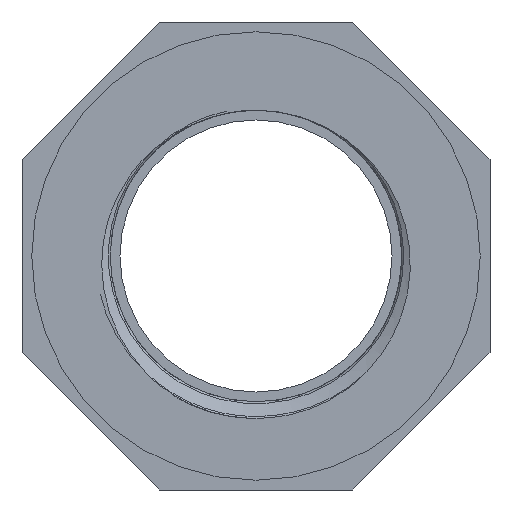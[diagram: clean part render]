
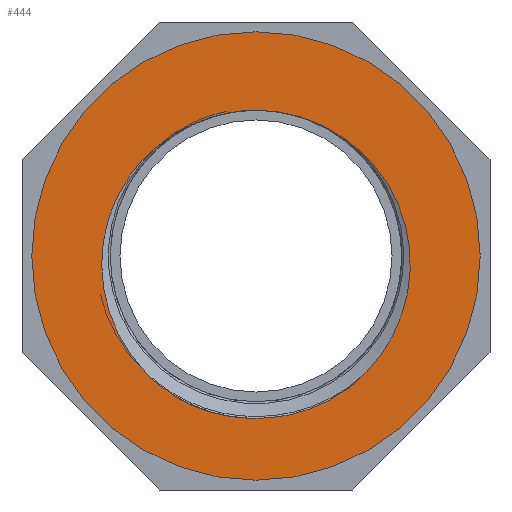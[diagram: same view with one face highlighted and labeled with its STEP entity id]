
A CAD part, front view. The second image highlights one B-rep face of the part: STEP entity #444.
In plain terms, the highlighted planar face has unit normal (0, -1, 0).
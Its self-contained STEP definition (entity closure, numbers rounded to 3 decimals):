
#82=FACE_BOUND('',#149,.T.);
#90=CIRCLE('',#469,11.5);
#115=FACE_OUTER_BOUND('',#148,.T.);
#148=EDGE_LOOP('',(#392));
#149=EDGE_LOOP('',(#393,#394,#395,#396,#397));
#165=B_SPLINE_CURVE_WITH_KNOTS('',3,(#1240,#1241,#1242,#1243,#1244,#1245,
#1246,#1247,#1248,#1249,#1250,#1251,#1252),.UNSPECIFIED.,.F.,.F.,(4,3,3,
3,4),(0.,0.38,0.769,1.168,1.28),
 .UNSPECIFIED.);
#168=B_SPLINE_CURVE_WITH_KNOTS('',3,(#2168,#2169,#2170,#2171,#2172,#2173,
#2174,#2175,#2176,#2177,#2178,#2179),.UNSPECIFIED.,.F.,.F.,(4,2,2,2,2,4),
(0.,0.208,0.4,0.586,0.713,
0.82),.UNSPECIFIED.);
#180=B_SPLINE_CURVE_WITH_KNOTS('',3,(#6326,#6327,#6328,#6329,#6330,#6331,
#6332,#6333,#6334,#6335,#6336,#6337,#6338),.UNSPECIFIED.,.F.,.F.,(4,3,3,
3,4),(0.,0.403,0.796,1.178,1.282),
 .UNSPECIFIED.);
#182=B_SPLINE_CURVE_WITH_KNOTS('',3,(#7017,#7018,#7019,#7020,#7021,#7022,
#7023,#7024),.UNSPECIFIED.,.F.,.F.,(4,2,2,4),(0.,0.169,0.259,
0.357),.UNSPECIFIED.);
#183=B_SPLINE_CURVE_WITH_KNOTS('',3,(#7590,#7591,#7592,#7593,#7594,#7595),
 .UNSPECIFIED.,.F.,.F.,(4,2,4),(0.,0.291,0.658),
 .UNSPECIFIED.);
#196=VERTEX_POINT('',#1126);
#197=VERTEX_POINT('',#1239);
#198=VERTEX_POINT('',#2055);
#204=VERTEX_POINT('',#6213);
#205=VERTEX_POINT('',#6904);
#225=VERTEX_POINT('',#7654);
#239=EDGE_CURVE('',#197,#196,#165,.T.);
#242=EDGE_CURVE('',#196,#198,#168,.T.);
#254=EDGE_CURVE('',#198,#204,#180,.T.);
#256=EDGE_CURVE('',#204,#205,#182,.T.);
#257=EDGE_CURVE('',#205,#197,#183,.T.);
#285=EDGE_CURVE('',#225,#225,#90,.T.);
#392=ORIENTED_EDGE('',*,*,#285,.T.);
#393=ORIENTED_EDGE('',*,*,#257,.T.);
#394=ORIENTED_EDGE('',*,*,#239,.T.);
#395=ORIENTED_EDGE('',*,*,#242,.T.);
#396=ORIENTED_EDGE('',*,*,#254,.T.);
#397=ORIENTED_EDGE('',*,*,#256,.T.);
#418=PLANE('',#468);
#444=ADVANCED_FACE('',(#115,#82),#418,.F.);
#468=AXIS2_PLACEMENT_3D('',#7653,#536,#537);
#469=AXIS2_PLACEMENT_3D('',#7655,#538,#539);
#536=DIRECTION('center_axis',(0.,1.,0.));
#537=DIRECTION('ref_axis',(0.,0.,1.));
#538=DIRECTION('center_axis',(0.,-1.,0.));
#539=DIRECTION('ref_axis',(1.,0.,0.));
#1126=CARTESIAN_POINT('',(5.693,-15.,-5.948));
#1239=CARTESIAN_POINT('',(5.237,-15.,5.471));
#1240=CARTESIAN_POINT('Ctrl Pts',(5.237,-15.,5.471));
#1241=CARTESIAN_POINT('Ctrl Pts',(6.197,-15.,4.646));
#1242=CARTESIAN_POINT('Ctrl Pts',(6.942,-15.,3.583));
#1243=CARTESIAN_POINT('Ctrl Pts',(7.394,-15.,2.405));
#1244=CARTESIAN_POINT('Ctrl Pts',(7.859,-15.,1.198));
#1245=CARTESIAN_POINT('Ctrl Pts',(8.015,-15.,-0.131));
#1246=CARTESIAN_POINT('Ctrl Pts',(7.851,-15.,-1.414));
#1247=CARTESIAN_POINT('Ctrl Pts',(7.683,-15.,-2.728));
#1248=CARTESIAN_POINT('Ctrl Pts',(7.178,-15.,-4.005));
#1249=CARTESIAN_POINT('Ctrl Pts',(6.405,-15.,-5.085));
#1250=CARTESIAN_POINT('Ctrl Pts',(6.188,-15.,-5.388));
#1251=CARTESIAN_POINT('Ctrl Pts',(5.95,-15.,-5.676));
#1252=CARTESIAN_POINT('Ctrl Pts',(5.693,-15.,-5.948));
#2055=CARTESIAN_POINT('',(-5.693,-15.,-5.948));
#2168=CARTESIAN_POINT('Ctrl Pts',(5.693,-15.,-5.948));
#2169=CARTESIAN_POINT('Ctrl Pts',(5.216,-15.,-6.452));
#2170=CARTESIAN_POINT('Ctrl Pts',(4.464,-15.,-7.082));
#2171=CARTESIAN_POINT('Ctrl Pts',(2.46,-15.,-8.022));
#2172=CARTESIAN_POINT('Ctrl Pts',(1.417,-15.,-8.278));
#2173=CARTESIAN_POINT('Ctrl Pts',(-0.673,-15.,-8.37));
#2174=CARTESIAN_POINT('Ctrl Pts',(-1.703,-15.,-8.218));
#2175=CARTESIAN_POINT('Ctrl Pts',(-3.338,-15.,-7.644));
#2176=CARTESIAN_POINT('Ctrl Pts',(-3.968,-15.,-7.324));
#2177=CARTESIAN_POINT('Ctrl Pts',(-5.034,-15.,-6.589));
#2178=CARTESIAN_POINT('Ctrl Pts',(-5.413,-15.,-6.245));
#2179=CARTESIAN_POINT('Ctrl Pts',(-5.693,-15.,-5.948));
#6213=CARTESIAN_POINT('',(-5.237,-15.,5.471));
#6326=CARTESIAN_POINT('Ctrl Pts',(-5.693,-15.,-5.948));
#6327=CARTESIAN_POINT('Ctrl Pts',(-6.615,-15.,-4.973));
#6328=CARTESIAN_POINT('Ctrl Pts',(-7.291,-15.,-3.774));
#6329=CARTESIAN_POINT('Ctrl Pts',(-7.639,-15.,-2.485));
#6330=CARTESIAN_POINT('Ctrl Pts',(-7.979,-15.,-1.226));
#6331=CARTESIAN_POINT('Ctrl Pts',(-8.005,-15.,0.121));
#6332=CARTESIAN_POINT('Ctrl Pts',(-7.707,-15.,1.389));
#6333=CARTESIAN_POINT('Ctrl Pts',(-7.418,-15.,2.623));
#6334=CARTESIAN_POINT('Ctrl Pts',(-6.818,-15.,3.792));
#6335=CARTESIAN_POINT('Ctrl Pts',(-5.976,-15.,4.744));
#6336=CARTESIAN_POINT('Ctrl Pts',(-5.747,-15.,5.003));
#6337=CARTESIAN_POINT('Ctrl Pts',(-5.5,-15.,5.246));
#6338=CARTESIAN_POINT('Ctrl Pts',(-5.237,-15.,5.471));
#6904=CARTESIAN_POINT('',(0.,-15.,7.474));
#7017=CARTESIAN_POINT('Ctrl Pts',(-5.237,-15.,5.471));
#7018=CARTESIAN_POINT('Ctrl Pts',(-4.81,-15.,5.838));
#7019=CARTESIAN_POINT('Ctrl Pts',(-4.151,-15.,6.349));
#7020=CARTESIAN_POINT('Ctrl Pts',(-2.752,-15.,6.989));
#7021=CARTESIAN_POINT('Ctrl Pts',(-2.243,-15.,7.162));
#7022=CARTESIAN_POINT('Ctrl Pts',(-1.155,-15.,7.41));
#7023=CARTESIAN_POINT('Ctrl Pts',(-0.579,-15.,7.475));
#7024=CARTESIAN_POINT('Ctrl Pts',(0.,-15.,7.475));
#7590=CARTESIAN_POINT('Ctrl Pts',(0.,-15.,7.475));
#7591=CARTESIAN_POINT('Ctrl Pts',(0.971,-15.,7.475));
#7592=CARTESIAN_POINT('Ctrl Pts',(1.932,-15.,7.292));
#7593=CARTESIAN_POINT('Ctrl Pts',(3.974,-15.,6.491));
#7594=CARTESIAN_POINT('Ctrl Pts',(4.768,-15.,5.874));
#7595=CARTESIAN_POINT('Ctrl Pts',(5.237,-15.,5.471));
#7653=CARTESIAN_POINT('Origin',(0.,-15.,0.));
#7654=CARTESIAN_POINT('',(-11.5,-15.,0.));
#7655=CARTESIAN_POINT('Origin',(0.,-15.,0.));
